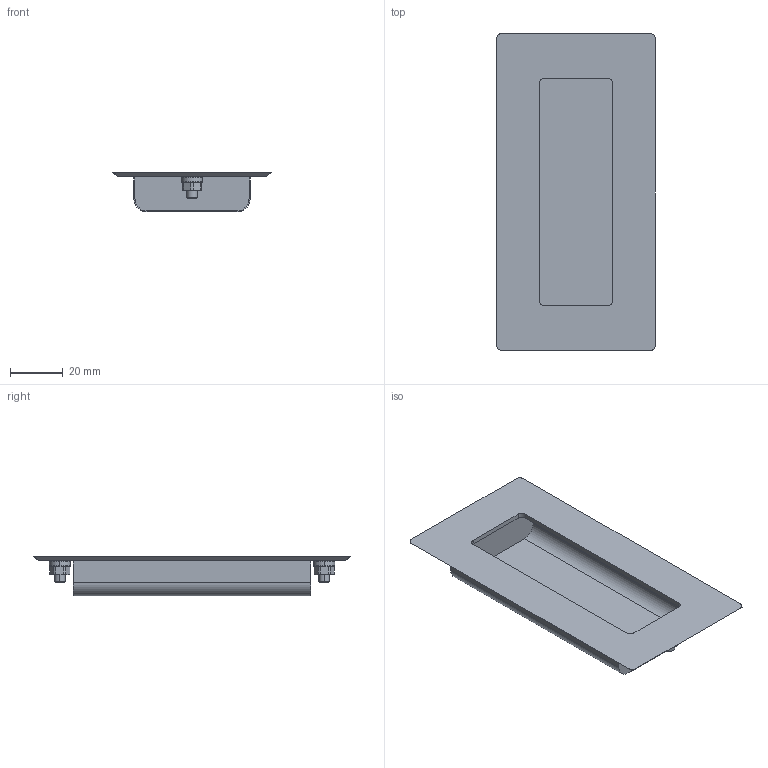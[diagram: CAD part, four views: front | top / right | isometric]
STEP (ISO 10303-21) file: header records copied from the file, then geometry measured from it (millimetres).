
FILE_DESCRIPTION (( 'STEP AP203' ), '1' );
FILE_NAME ('XG01-036.STEP', '2024-03-13T00:10:55', ( '' ), ( '' ), 'SwSTEP 2.0', 'SolidWorks 2020', '' );
FILE_SCHEMA (( 'CONFIG_CONTROL_DESIGN' ));
Length unit declared in the file: millimetre
Products named in the file (4): _UWAUNS_washer_4; XG01-036; _UWAUNS_nut_6; _UWAUNS120_1_2
Assembly tree (5 placements, depth 2):
  XG01-036
    _UWAUNS120_1_2
    _UWAUNS_washer_4  x2
    _UWAUNS_nut_6  x2
Bounding box: 60 x 120 x 15 mm (x, y, z)
Volume: 11387.4 mm3; surface area: 24937.6 mm2
Topology: 5 solids, 5 shells, 127 faces, 292 edges, 180 vertices
Faces by surface type: cone 44, plane 43, cylinder 40
Entity records: 2950 total; most frequent: CARTESIAN_POINT 535, DIRECTION 428, ORIENTED_EDGE 396, EDGE_CURVE 198, AXIS2_PLACEMENT_3D 169, VERTEX_POINT 124, EDGE_LOOP 94, VECTOR 90
